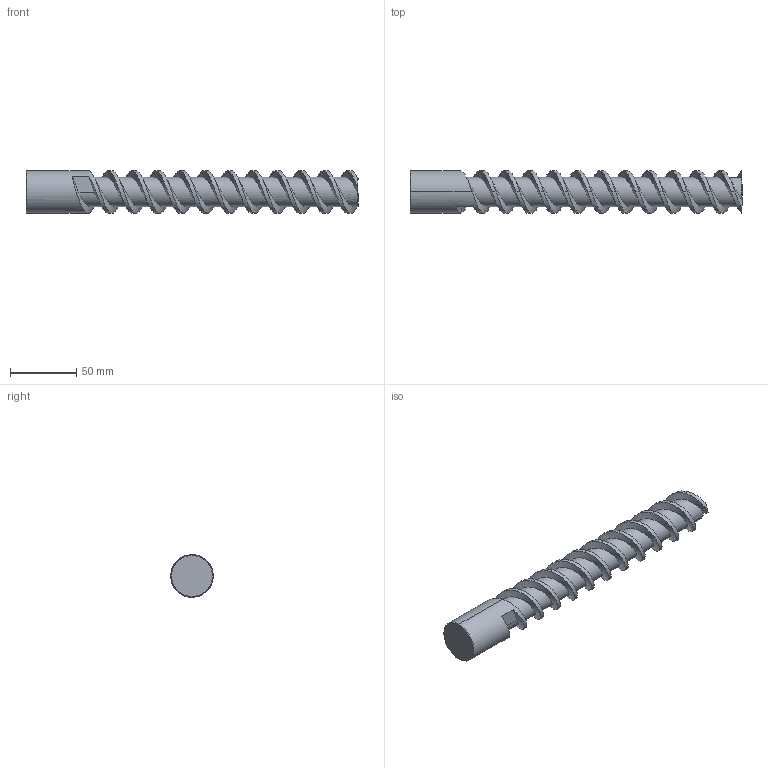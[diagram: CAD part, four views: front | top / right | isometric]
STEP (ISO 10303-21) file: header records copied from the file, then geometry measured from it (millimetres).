
FILE_DESCRIPTION (( 'STEP AP214' ), '1' );
FILE_NAME ('E2122_32_250.STEP', '2013-04-10T07:10:53', ( '' ), ( '' ), 'SwSTEP 2.0', 'SolidWorks 2013', '' );
FILE_SCHEMA (( 'AUTOMOTIVE_DESIGN' ));
Length unit declared in the file: millimetre
Products named in the file (1): E2122_32_250
Bounding box: 250 x 32 x 32 mm (x, y, z)
Volume: 133683.2 mm3; surface area: 29819.2 mm2
Topology: 1 solids, 1 shells, 40 faces, 108 edges, 70 vertices
Faces by surface type: cylinder 24, plane 8, bspline 6, cone 2
Entity records: 8468 total; most frequent: CARTESIAN_POINT 7193, ORIENTED_EDGE 216, DIRECTION 120, EDGE_CURVE 108, VERTEX_POINT 70, UNCERTAINTY_MEASURE_WITH_UNIT 43, PRESENTATION_LAYER_ASSIGNMENT 42, SURFACE_STYLE_FILL_AREA 42
